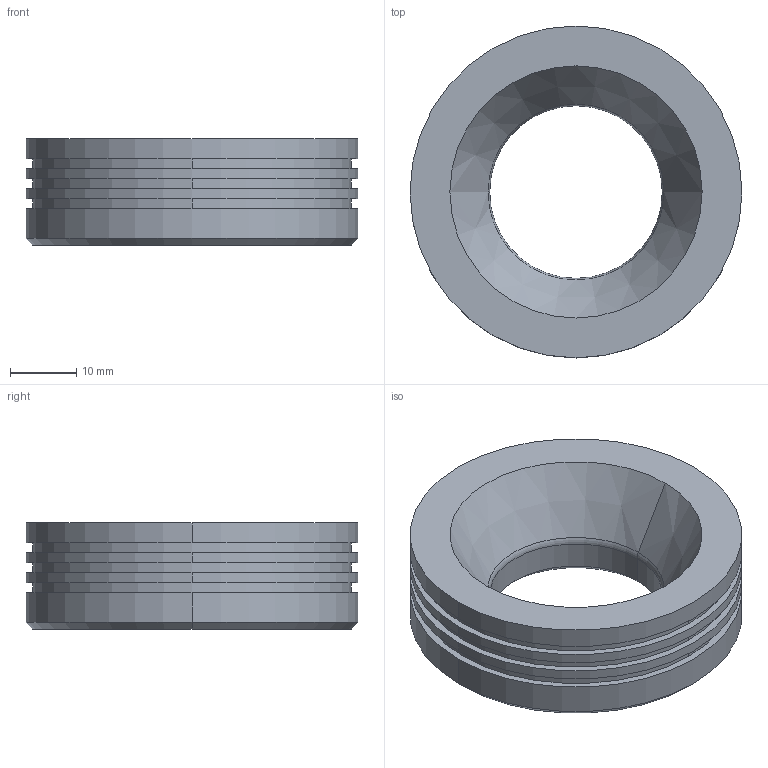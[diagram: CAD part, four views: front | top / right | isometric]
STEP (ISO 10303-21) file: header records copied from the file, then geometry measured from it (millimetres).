
FILE_DESCRIPTION((''),'2;1');
FILE_NAME('DRL7030','2020-03-27T',('ASUS'),(''),'PRO/ENGINEER BY PARAMETRIC TECHNOLOGY CORPORATION, 2008380','PRO/ENGINEER BY PARAMETRIC TECHNOLOGY CORPORATION, 2008380','');
FILE_SCHEMA(('CONFIG_CONTROL_DESIGN'));
Length unit declared in the file: millimetre
Products named in the file (1): DRL7030
Bounding box: 50 x 50 x 16 mm (x, y, z)
Volume: 19005.8 mm3; surface area: 7637.3 mm2
Topology: 1 solids, 5 shells, 68 faces, 152 edges, 92 vertices
Faces by surface type: cylinder 32, cone 22, plane 12, torus 2
Entity records: 1901 total; most frequent: DIRECTION 372, CARTESIAN_POINT 305, ORIENTED_EDGE 272, AXIS2_PLACEMENT_3D 159, EDGE_CURVE 144, VERTEX_POINT 92, CIRCLE 90, EDGE_LOOP 84
